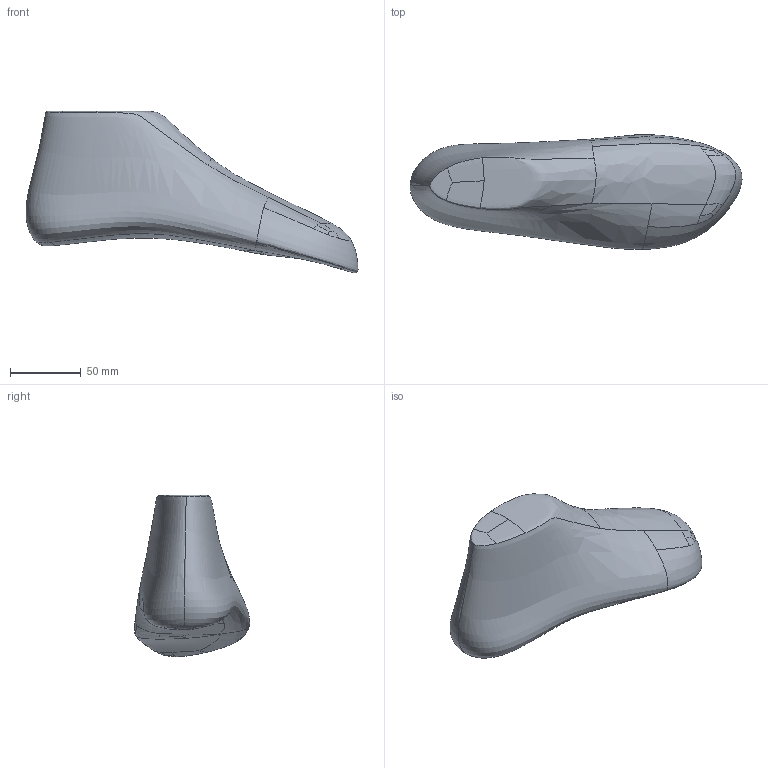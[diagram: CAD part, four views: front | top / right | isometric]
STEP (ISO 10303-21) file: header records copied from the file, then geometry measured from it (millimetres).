
FILE_DESCRIPTION(/* description */ (''),/* implementation_level */ '2;1');
FILE_NAME(/* name */ '40-sample-uncut',/* time_stamp */ '2026-02-27T14:10:46-07:00',/* author */ (''),/* organization */ (''),/* preprocessor_version */ 'ST-DEVELOPER v19.2',/* originating_system */ 'Rhino 8.28',/* authorisation */ '');
FILE_SCHEMA (('AUTOMOTIVE_DESIGN'));
Length unit declared in the file: millimetre
Products named in the file (1): Document
Bounding box: 234.07 x 81.15 x 113.85 mm (x, y, z)
Volume: 734813.5 mm3; surface area: 54193.1 mm2
Topology: 1 solids, 1 shells, 37 faces, 98 edges, 63 vertices
Faces by surface type: bspline 37
Entity records: 10365 total; most frequent: CARTESIAN_POINT 9496, ORIENTED_EDGE 196, EDGE_CURVE 98, B_SPLINE_CURVE_WITH_KNOTS 98, VERTEX_POINT 63, ADVANCED_FACE 37, FACE_OUTER_BOUND 37, EDGE_LOOP 37
